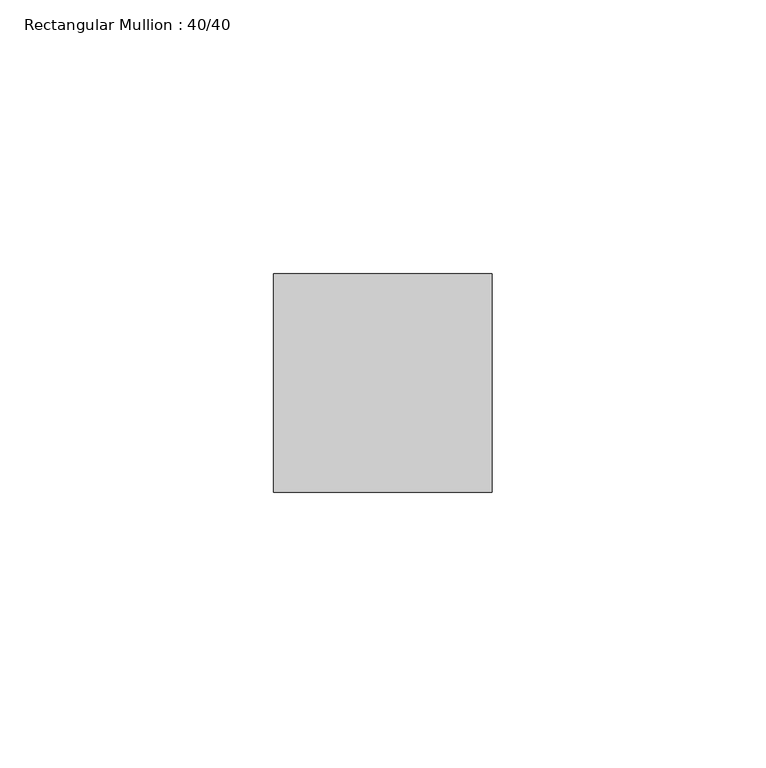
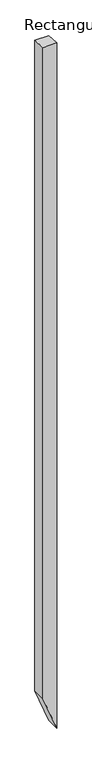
"""IFC4 building model written with IfcOpenShell, lengths in millimetres: member geometry, Rectangular Mullion : 40/40."""

from ifc_helpers import new_model, si_unit, origin, place, context, project, spatial, faceted_brep, source, transform, mapped, element, save


def rectangular_mullion_40_40_b2ab2fb7(model_context):
    return source(origin(), model_context, "Body", "Brep", [
        faceted_brep([(-20.0, 20.0, -1.3985362), (20.0, 20.0, -1.3985362), (20.0, 20.0, -2071.1547908), (-20.0, 20.0, -1968.0624812), (-20.0, -20.0, 1.3985362), (-20.0, -20.0, -1968.0624812), (20.0, -20.0, 1.3985362), (20.0, -20.0, -2071.1547908)], [[[0, 1, 2, 3]], [[4, 0, 3, 5]], [[6, 4, 5, 7]], [[1, 6, 7, 2]], [[1, 0, 4, 6]], [[2, 7, 5, 3]]]),
    ])


if __name__ == "__main__":
    model = new_model("IFC4")
    model_context = context("Model", 3, world=origin())
    ifc_project = project(units=[si_unit("LENGTHUNIT", "METRE", prefix="MILLI")], contexts=[model_context])
    site = spatial("IfcSite", under=ifc_project)
    building = spatial("IfcBuilding", under=site)
    placement = place(None, origin())
    rectangular_mullion_40_40_shape = rectangular_mullion_40_40_b2ab2fb7(model_context)
    element("IfcMember", 1, ObjectType="Rectangular Mullion : 40/40", at=placement, inside=building, context=model_context, shape_type="MappedRepresentation", body=[
        mapped(rectangular_mullion_40_40_shape, transform((0.0, 0.0, 0.0), x_axis=(1.0, 0.0, 0.0), y_axis=(0.0, 1.0, 0.0), z_axis=(0.0, 0.0, 1.0))),
    ])
    save(model, "model.ifc")
